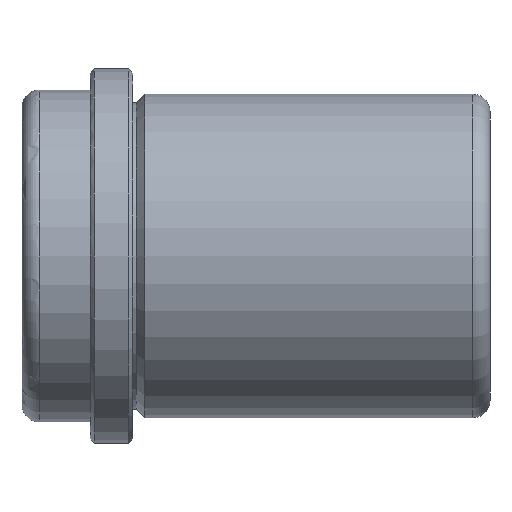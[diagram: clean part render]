
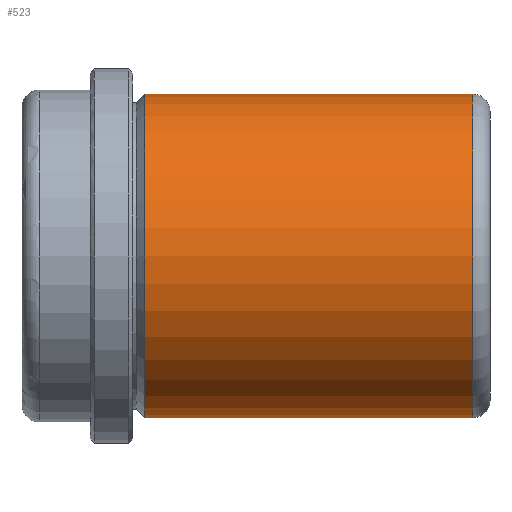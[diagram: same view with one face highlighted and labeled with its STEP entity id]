
A CAD part, front view. The second image highlights one B-rep face of the part: STEP entity #523.
In plain terms, the highlighted cylindrical face has radius 19 mm (diameter 38 mm), a partial arc.
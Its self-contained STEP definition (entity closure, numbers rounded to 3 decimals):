
#312=CARTESIAN_POINT('Line Origine',(42.,0.,19.)) ;
#316=CARTESIAN_POINT('Vertex',(40.,0.,19.)) ;
#318=CARTESIAN_POINT('Vertex',(1.414,0.,19.)) ;
#332=CARTESIAN_POINT('Vertex',(40.,0.,-19.)) ;
#335=CARTESIAN_POINT('Line Origine',(42.,0.,-19.)) ;
#339=CARTESIAN_POINT('Vertex',(1.414,0.,-19.)) ;
#486=CARTESIAN_POINT('Axis2P3D Location',(42.,0.,0.)) ;
#491=CARTESIAN_POINT('Axis2P3D Location',(40.,0.,0.)) ;
#495=CARTESIAN_POINT('Vertex',(40.,-19.,0.)) ;
#498=CARTESIAN_POINT('Axis2P3D Location',(40.,0.,0.)) ;
#503=CARTESIAN_POINT('Axis2P3D Location',(1.414,0.,0.)) ;
#507=CARTESIAN_POINT('Vertex',(1.414,-19.,0.)) ;
#510=CARTESIAN_POINT('Axis2P3D Location',(1.414,0.,0.)) ;
#313=DIRECTION('Vector Direction',(-1.,0.,0.)) ;
#336=DIRECTION('Vector Direction',(-1.,0.,0.)) ;
#487=DIRECTION('Axis2P3D Direction',(-1.,-0.,-0.)) ;
#488=DIRECTION('Axis2P3D XDirection',(0.,0.,-1.)) ;
#492=DIRECTION('Axis2P3D Direction',(-1.,-0.,-0.)) ;
#499=DIRECTION('Axis2P3D Direction',(-1.,-0.,-0.)) ;
#504=DIRECTION('Axis2P3D Direction',(-1.,-0.,-0.)) ;
#511=DIRECTION('Axis2P3D Direction',(-1.,-0.,-0.)) ;
#489=AXIS2_PLACEMENT_3D('Cylinder Axis2P3D',#486,#487,#488) ;
#493=AXIS2_PLACEMENT_3D('Circle Axis2P3D',#491,#492,$) ;
#500=AXIS2_PLACEMENT_3D('Circle Axis2P3D',#498,#499,$) ;
#505=AXIS2_PLACEMENT_3D('Circle Axis2P3D',#503,#504,$) ;
#512=AXIS2_PLACEMENT_3D('Circle Axis2P3D',#510,#511,$) ;
#516=ORIENTED_EDGE('',*,*,#341,.T.) ;
#517=ORIENTED_EDGE('',*,*,#497,.F.) ;
#518=ORIENTED_EDGE('',*,*,#502,.F.) ;
#519=ORIENTED_EDGE('',*,*,#320,.T.) ;
#520=ORIENTED_EDGE('',*,*,#509,.T.) ;
#521=ORIENTED_EDGE('',*,*,#514,.T.) ;
#314=VECTOR('Line Direction',#313,1.) ;
#337=VECTOR('Line Direction',#336,1.) ;
#523=ADVANCED_FACE('FAMO-SF1-B24 x 55',(#522),#490,.T.) ;
#494=CIRCLE('generated circle',#493,19.) ;
#501=CIRCLE('generated circle',#500,19.) ;
#506=CIRCLE('generated circle',#505,19.) ;
#513=CIRCLE('generated circle',#512,19.) ;
#490=CYLINDRICAL_SURFACE('generated cylinder',#489,19.) ;
#320=EDGE_CURVE('',#317,#319,#315,.T.) ;
#341=EDGE_CURVE('',#340,#333,#338,.F.) ;
#497=EDGE_CURVE('',#496,#333,#494,.F.) ;
#502=EDGE_CURVE('',#317,#496,#501,.F.) ;
#509=EDGE_CURVE('',#319,#508,#506,.F.) ;
#514=EDGE_CURVE('',#508,#340,#513,.F.) ;
#515=EDGE_LOOP('',(#516,#517,#518,#519,#520,#521)) ;
#522=FACE_OUTER_BOUND('',#515,.T.) ;
#315=LINE('Line',#312,#314) ;
#338=LINE('Line',#335,#337) ;
#317=VERTEX_POINT('',#316) ;
#319=VERTEX_POINT('',#318) ;
#333=VERTEX_POINT('',#332) ;
#340=VERTEX_POINT('',#339) ;
#496=VERTEX_POINT('',#495) ;
#508=VERTEX_POINT('',#507) ;
